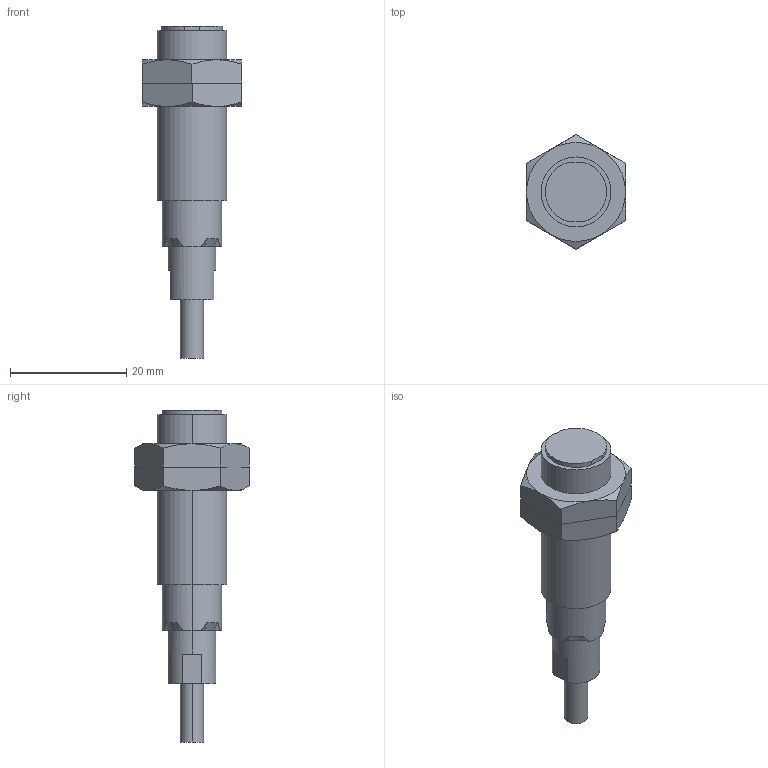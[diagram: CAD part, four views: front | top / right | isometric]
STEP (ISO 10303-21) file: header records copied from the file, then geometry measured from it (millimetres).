
FILE_DESCRIPTION (( 'STEP AP203' ), '1' );
FILE_NAME ('E2B_M12KS04_WP_C1.STEP', '2013-04-24T07:11:52', ( '' ), ( '' ), 'SwSTEP 2.0', 'SolidWorks 2011', '' );
FILE_SCHEMA (( 'CONFIG_CONTROL_DESIGN' ));
Length unit declared in the file: millimetre
Products named in the file (3): E2B_M12KS04_WP_C1; E2B_M12KS04_WP_C1_CLAMPING_NUT_Default; E2B_M12KS04_WP_C1_BASE_Default
Assembly tree (3 placements, depth 2):
  E2B_M12KS04_WP_C1
    E2B_M12KS04_WP_C1_BASE_Default
    E2B_M12KS04_WP_C1_CLAMPING_NUT_Default  x2
Bounding box: 17 x 19.63 x 57 mm (x, y, z)
Volume: 5694.7 mm3; surface area: 3255.2 mm2
Topology: 3 solids, 3 shells, 67 faces, 159 edges, 102 vertices
Faces by surface type: plane 36, cone 16, cylinder 15
Entity records: 1882 total; most frequent: CARTESIAN_POINT 352, DIRECTION 265, ORIENTED_EDGE 246, EDGE_CURVE 123, AXIS2_PLACEMENT_3D 105, VERTEX_POINT 80, EDGE_LOOP 57, LINE 55
